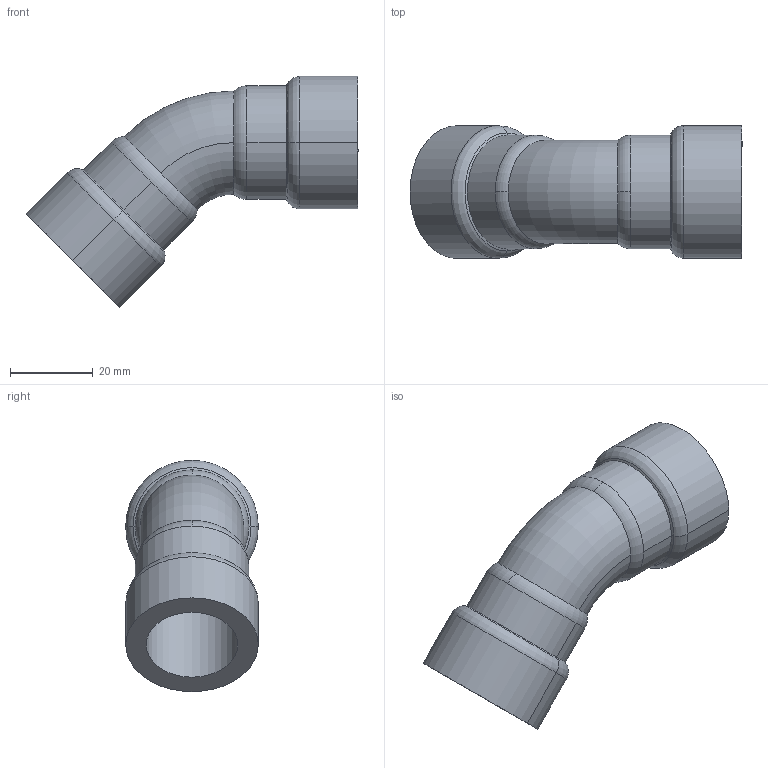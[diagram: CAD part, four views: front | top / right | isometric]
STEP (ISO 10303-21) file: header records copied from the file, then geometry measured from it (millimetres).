
FILE_DESCRIPTION(('Creo Elements/Direct Modeling STEP Export'),'2;1');
FILE_NAME('C9413_1-2.stp','2020-06-25T15:10:19',(''),(''),'PTC Creo Elements/Direct Modeling STEP processor for AP214 (Solid Model)','PTC Creo Elements/Direct Modeling 19.0C 15-Aug-2015 (C) Parametric Technology GmbH','');
FILE_SCHEMA(('AUTOMOTIVE_DESIGN { 1 0 10303 214 1 1 1 1 }'));
Length unit declared in the file: millimetre
Products named in the file (2): 9412_1_2
Assembly tree (1 placements, depth 2):
  9412_1_2
    9412_1_2
Bounding box: 80.36 x 32.1 x 55.99 mm (x, y, z)
Volume: 23336.8 mm3; surface area: 13831.4 mm2
Topology: 1 solids, 1 shells, 36 faces, 84 edges, 52 vertices
Faces by surface type: cylinder 16, torus 12, plane 4, cone 4
Entity records: 945 total; most frequent: ORIENTED_EDGE 168, DIRECTION 160, CARTESIAN_POINT 142, EDGE_CURVE 84, AXIS2_PLACEMENT_3D 70, VERTEX_POINT 52, EDGE_LOOP 40, FACE_OUTER_BOUND 36
